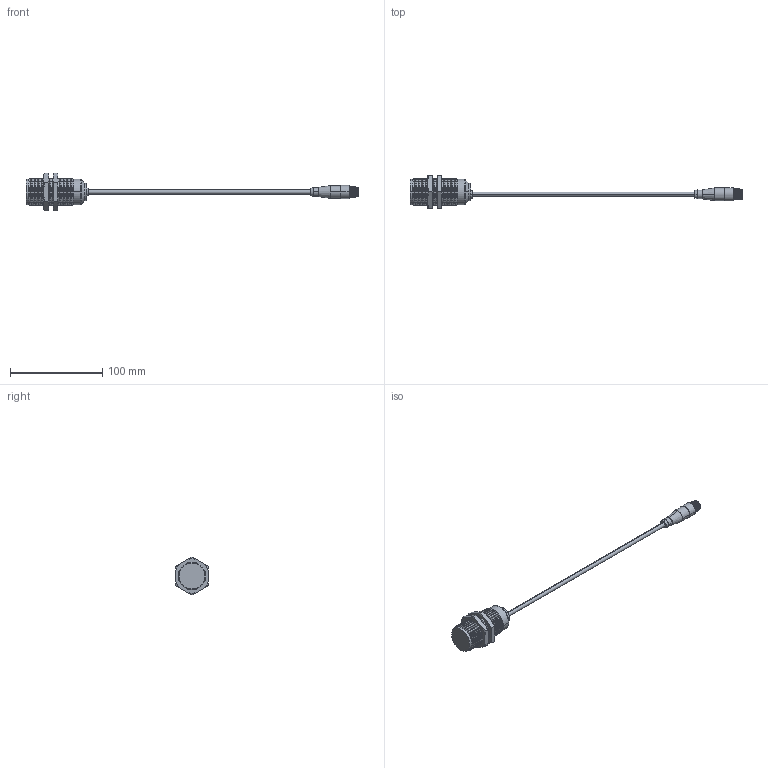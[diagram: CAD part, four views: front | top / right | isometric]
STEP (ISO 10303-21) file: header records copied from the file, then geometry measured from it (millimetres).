
FILE_DESCRIPTION (( 'STEP AP203' ), '1' );
FILE_NAME ('90-29356-054.STEP', '2015-09-19T18:41:04', ( 'Sam' ), ( 'Spade' ), 'SwSTEP 2.0', 'SolidWorks 2002296', '' );
FILE_SCHEMA (( 'CONFIG_CONTROL_DESIGN' ));
Length unit declared in the file: inch
Products named in the file (12): 90-29356-054; Imported21; Imported20; Imported19; Imported14; Imported13; Imported12; Imported18; Imported17; Imported16; Imported15; Imported22
Assembly tree (11 placements, depth 2):
  90-29356-054
    Imported20
    Imported18
    Imported22
    Imported17
    Imported19
    Imported21
    Imported15
    Imported16
    Imported12
    Imported14
    Imported13
Bounding box: 359.95 x 35.64 x 41.15 mm (x, y, z)
Volume: 59346.2 mm3; surface area: 25246.6 mm2
Topology: 11 solids, 11 shells, 504 faces, 1196 edges, 717 vertices
Faces by surface type: cone 220, cylinder 127, bspline 81, plane 76
Entity records: 20827 total; most frequent: CARTESIAN_POINT 8122, DIRECTION 2486, ORIENTED_EDGE 2376, EDGE_CURVE 1188, AXIS2_PLACEMENT_3D 1021, VERTEX_POINT 717, CIRCLE 584, EDGE_LOOP 529
